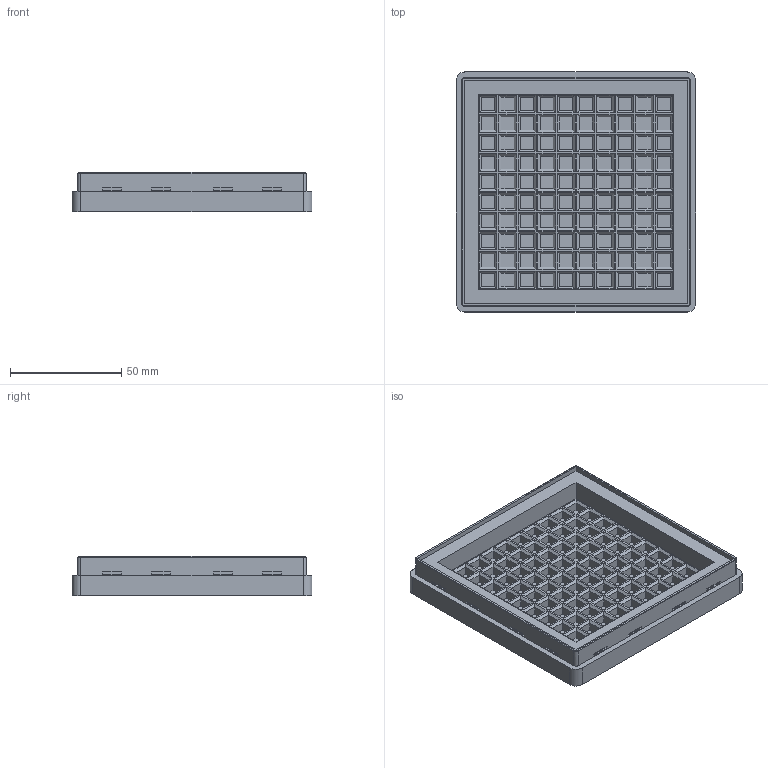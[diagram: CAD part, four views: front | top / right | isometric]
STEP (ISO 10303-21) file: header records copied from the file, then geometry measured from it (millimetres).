
FILE_DESCRIPTION(('FreeCAD Model'),'2;1');
FILE_NAME('Open CASCADE Shape Model','2026-10-10T20:57:24',(''),(''), 'Open CASCADE STEP processor 7.8','FreeCAD','Unknown');
FILE_SCHEMA(('AUTOMOTIVE_DESIGN { 1 0 10303 214 1 1 1 1 }'));
Products named in the file (1): Entropy_Box_100_V3_Base
Bounding box: 108 x 108 x 17.6 mm (x, y, z)
Volume: 84877.7 mm3; surface area: 45605.5 mm2
Topology: 1 solids, 1 shells, 1517 faces, 3480 edges, 2184 vertices
Faces by surface type: bspline 1517
Entity records: 77780 total; most frequent: CARTESIAN_POINT 30841, B_SPLINE_CURVE_WITH_KNOTS 10404, ORIENTED_EDGE 6960, PCURVE 6960, DEFINITIONAL_REPRESENTATION 6960, EDGE_CURVE 3480, SURFACE_CURVE 3480, VERTEX_POINT 2184
